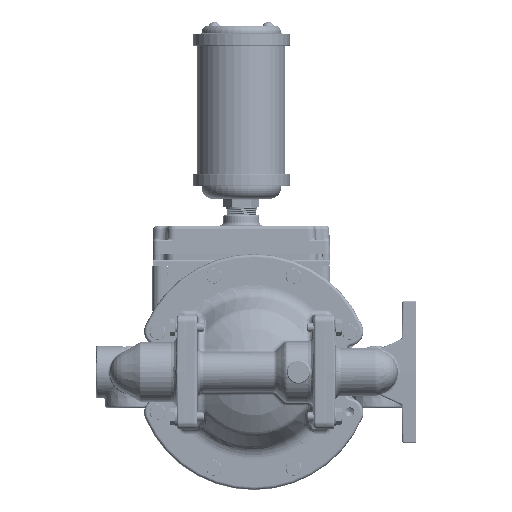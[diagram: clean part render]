
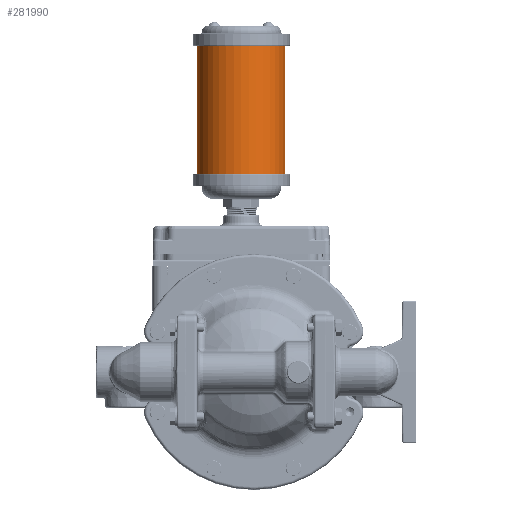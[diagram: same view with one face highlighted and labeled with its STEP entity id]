
A CAD part, left-side view. The second image highlights one B-rep face of the part: STEP entity #281990.
In plain terms, the highlighted cylindrical face has radius 39.243 mm (diameter 78.486 mm), a partial arc.
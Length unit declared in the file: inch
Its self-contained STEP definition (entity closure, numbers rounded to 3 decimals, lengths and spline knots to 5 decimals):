
#221797=CARTESIAN_POINT('',(0.,0.435,6.951));
#221798=DIRECTION('',(0.,0.,1.));
#221799=DIRECTION('',(0.,1.,0.));
#221800=AXIS2_PLACEMENT_3D('',#221797,#221798,#221799);
#221822=DIRECTION('',(0.,0.,-1.));
#221823=VECTOR('',#221822,4.479);
#221824=CARTESIAN_POINT('',(0.,-1.11,11.43));
#221825=LINE('',#221824,#221823);
#221826=DIRECTION('',(0.,0.,-1.));
#221827=VECTOR('',#221826,4.479);
#221828=CARTESIAN_POINT('',(0.,1.98,11.43));
#221829=LINE('',#221828,#221827);
#221835=CARTESIAN_POINT('',(0.,0.435,11.43));
#221836=DIRECTION('',(0.,0.,-1.));
#221837=DIRECTION('',(0.,-1.,0.));
#221838=AXIS2_PLACEMENT_3D('',#221835,#221836,#221837);
#267541=CARTESIAN_POINT('',(0.,1.98,6.951));
#267542=CARTESIAN_POINT('',(0.,-1.11,6.951));
#267543=VERTEX_POINT('',#267541);
#267544=VERTEX_POINT('',#267542);
#267545=CARTESIAN_POINT('',(0.,1.98,11.43));
#267546=VERTEX_POINT('',#267545);
#267547=CARTESIAN_POINT('',(0.,-1.11,11.43));
#267548=VERTEX_POINT('',#267547);
#281976=CARTESIAN_POINT('',(0.,0.435,12.455));
#281977=DIRECTION('',(0.,0.,-1.));
#281978=DIRECTION('',(0.,-1.,0.));
#281979=AXIS2_PLACEMENT_3D('',#281976,#281977,#281978);
#281980=CYLINDRICAL_SURFACE('',#281979,1.545);
#281982=ORIENTED_EDGE('',*,*,#281981,.F.);
#281984=ORIENTED_EDGE('',*,*,#281983,.F.);
#281986=ORIENTED_EDGE('',*,*,#281985,.T.);
#281987=ORIENTED_EDGE('',*,*,#281957,.F.);
#281988=EDGE_LOOP('',(#281982,#281984,#281986,#281987));
#281989=FACE_OUTER_BOUND('',#281988,.F.);
#281990=ADVANCED_FACE('',(#281989),#281980,.T.);
#221801=CIRCLE('',#221800,1.545);
#221839=CIRCLE('',#221838,1.545);
#281957=EDGE_CURVE('',#267543,#267544,#221801,.T.);
#281981=EDGE_CURVE('',#267546,#267543,#221829,.T.);
#281983=EDGE_CURVE('',#267548,#267546,#221839,.T.);
#281985=EDGE_CURVE('',#267548,#267544,#221825,.T.);
